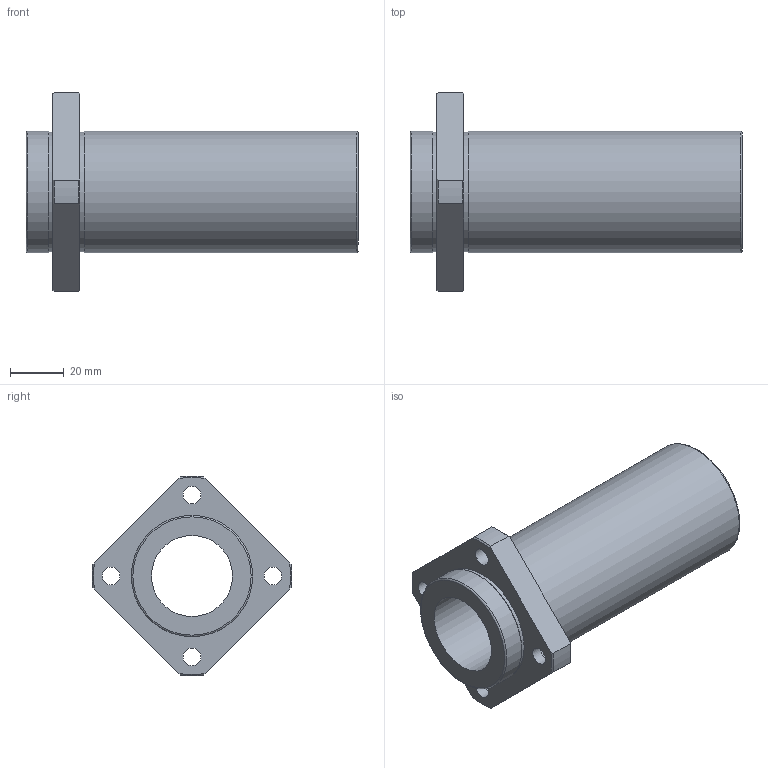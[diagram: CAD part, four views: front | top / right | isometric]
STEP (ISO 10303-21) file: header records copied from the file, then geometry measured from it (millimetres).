
FILE_DESCRIPTION(('STEP AP203'),'1');
FILE_NAME('//192.168.1.1/share/s-4 技術開発/s-4-4_CAD/s-4-4-3_見直し済み/002 修正済み/NFIS-VL/NFIS-VL_TOP/NFIS-30VLUU.step','2022-03-08T02:37:54',(' '),(' '),'Spatial InterOp 3D',' ',' ');
FILE_SCHEMA(('CONFIG_CONTROL_DESIGN'));
Length unit declared in the file: millimetre
Products named in the file (1): 1
Bounding box: 123 x 73.95 x 73.95 mm (x, y, z)
Volume: 122776.5 mm3; surface area: 35876.5 mm2
Topology: 1 solids, 1 shells, 41 faces, 99 edges, 68 vertices
Faces by surface type: cylinder 17, plane 14, cone 8, torus 2
Full cylindrical faces by diameter (mm): 6.6 x4, 11 x4, 30 x1, 44.4 x2, 45 x2
Entity records: 1158 total; most frequent: CARTESIAN_POINT 226, DIRECTION 188, ORIENTED_EDGE 152, AXIS2_PLACEMENT_3D 86, EDGE_CURVE 76, EDGE_LOOP 74, VERTEX_POINT 60, FACE_OUTER_BOUND 56
